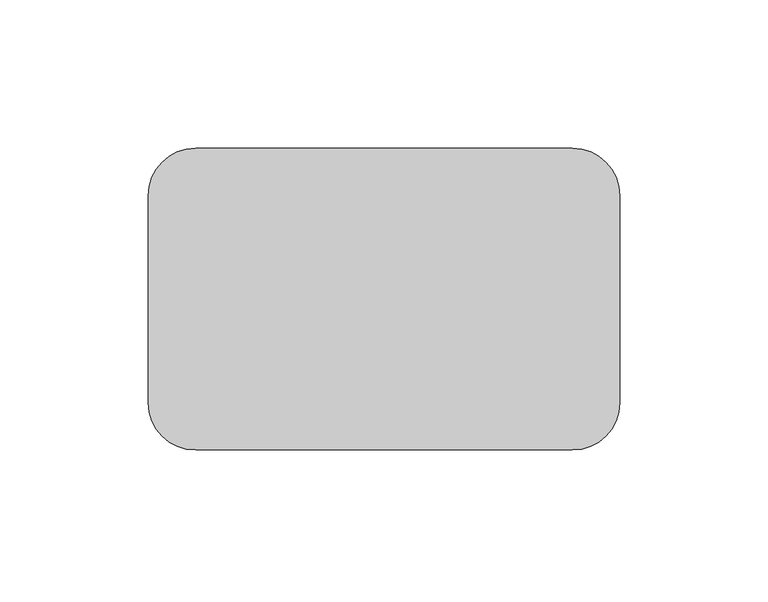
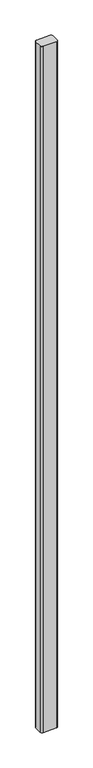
"""IFC4 building model written with IfcOpenShell, lengths in millimetres: proxy geometry, GROUTED CMU CELLS : GROUTED CMU CELLS."""

from ifc_helpers import new_model, si_unit, point, frame_2d, origin, origin_with_axes, place, context, project, spatial, polyline, circle_curve, trimmed, segment, composite_curve, outline, extrude, source, transform, mapped, element, save


def generic_models_8dd5a6fb(model_context):
    return source(origin(), model_context, "Body", "SweptSolid", [
        extrude(outline(composite_curve([segment(trimmed(circle_curve(frame_2d((63.5, 34.925)), 15.875), [point((63.5, 50.8))], [point((79.375, 34.925))], False, "CARTESIAN"), True, "CONTINUOUS"), segment(polyline([(79.375, 34.925), (79.375, -34.925)]), True, "CONTINUOUS"), segment(trimmed(circle_curve(frame_2d((63.5, -34.925)), 15.875), [point((79.375, -34.925))], [point((63.5, -50.8))], False, "CARTESIAN"), True, "CONTINUOUS"), segment(polyline([(63.5, -50.8), (-63.5, -50.8)]), True, "CONTINUOUS"), segment(trimmed(circle_curve(frame_2d((-63.5, -34.925)), 15.875), [point((-63.5, -50.8))], [point((-79.375, -34.925))], False, "CARTESIAN"), True, "CONTINUOUS"), segment(polyline([(-79.375, -34.925), (-79.375, 34.925)]), True, "CONTINUOUS"), segment(trimmed(circle_curve(frame_2d((-63.5, 34.925)), 15.875), [point((-79.375, 34.925))], [point((-63.5, 50.8))], False, "CARTESIAN"), True, "CONTINUOUS"), segment(polyline([(-63.5, 50.8), (63.5, 50.8)]), True, "CONTINUOUS")], self_intersect=False)), origin_with_axes(), (0.0, 0.0, 1.0), 6667.5),
    ])


if __name__ == "__main__":
    model = new_model("IFC4")
    model_context = context("Model", 3, world=origin())
    ifc_project = project(units=[si_unit("LENGTHUNIT", "METRE", prefix="MILLI")], contexts=[model_context])
    site = spatial("IfcSite", under=ifc_project)
    building = spatial("IfcBuilding", under=site)
    placement = place(None, origin())
    generic_models_shape = generic_models_8dd5a6fb(model_context)
    element("IfcBuildingElementProxy", 1, Name="GROUTED CMU CELLS : GROUTED CMU CELLS", ObjectType="GROUTED CMU CELLS : GROUTED CMU CELLS", at=placement, inside=building, context=model_context, shape_type="MappedRepresentation", body=[
        mapped(generic_models_shape, transform((0.0, 0.0, 0.0), x_axis=(1.0, 0.0, 0.0), y_axis=(0.0, 1.0, 0.0), z_axis=(0.0, 0.0, 1.0))),
    ])
    save(model, "model.ifc")
